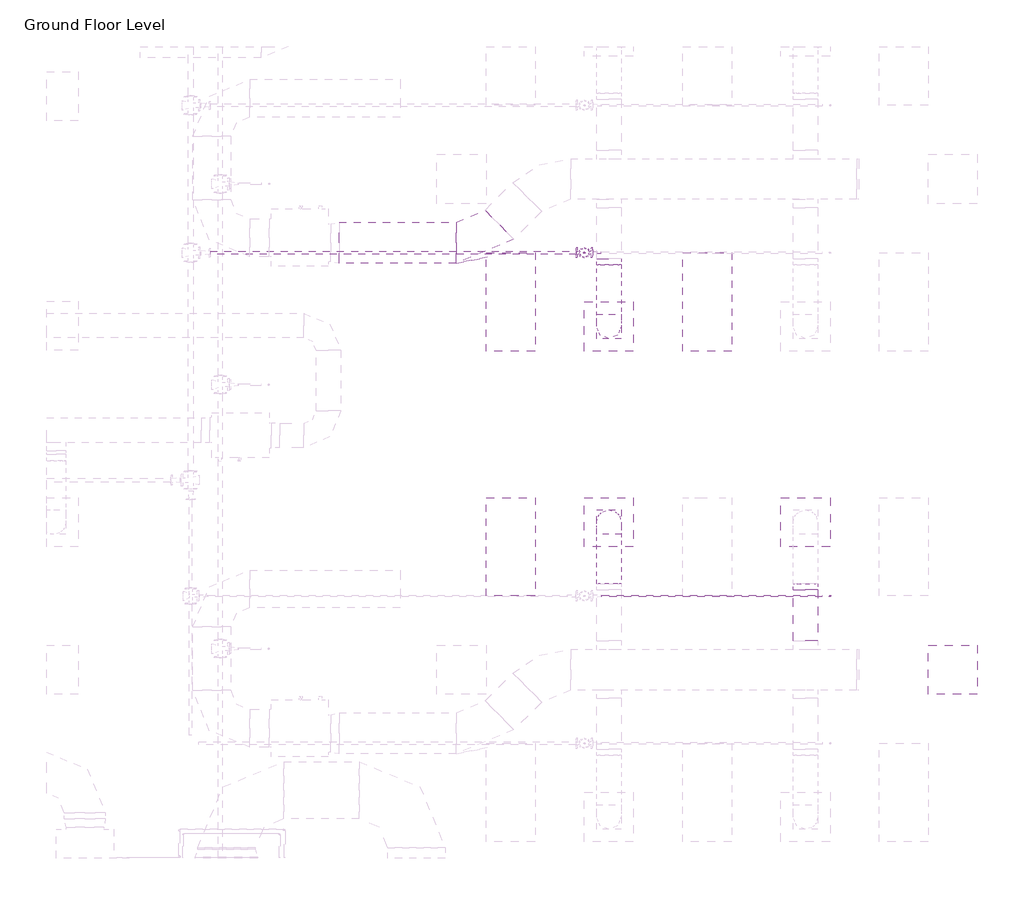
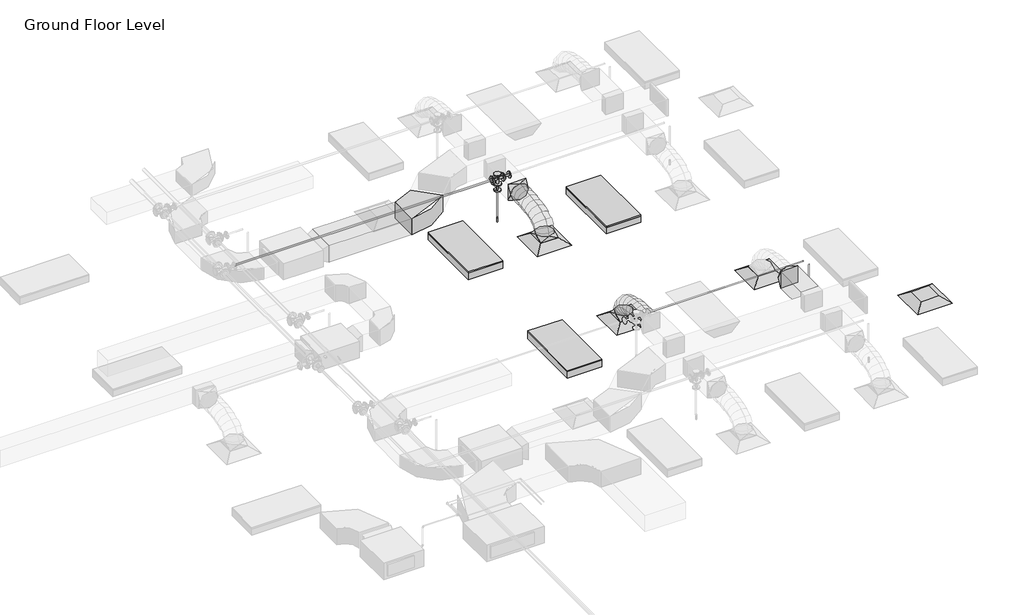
# One storey, part 37 of 68: 5 duct fittings, 4 air terminals, 4 duct segments, 4 pipe segments, 3 light fixtures, 3 pipe fittings, 2 fire suppression terminals.
"""IFC4 building model written with IfcOpenShell, lengths in millimetres."""

from ifc_helpers import new_model, si_unit, point, frame, frame_2d, origin, place, context, project, spatial, polyline, circle_curve, ellipse_curve, trimmed, segment, composite_curve, outline, extrude, transform, mapped, element, save
from ifc_brep_helpers import plane_surface, cylinder_surface, advanced_brep
from components import m_return_diffuser_600_x_600_face_300_x_300_connection_ff221211, m_rectangular_elbow_radius_1_5_w_acc56c25, m_rectangular_to_round_transition_angle_45_degree_641efff0, m_sprinkler_dry_pendent_hosted_15_mm_dry_pendent_9bda8e11, m_troffer_light_parabolic_rectangular1_0600x1200mm_4_lamp_86473d4a, m_reducer_flanged_cs_class_150_standard_ccf252ad, m_tee_round_base_flanged_cs_class_150_standard_7e5987a1

model = new_model("IFC4")

# Units and contexts
model_context = context("Model", 3, world=origin())
ifc_project = project(units=[si_unit("LENGTHUNIT", "METRE", prefix="MILLI")], contexts=[model_context])

# Site, building, storey
site = spatial("IfcSite", under=ifc_project)
building = spatial("IfcBuilding", under=site)
storey = spatial("IfcBuildingStorey", under=building, Name="Ground Floor Level", Elevation=900.0)

# Air terminals
placement = place(None, origin())
m_return_diffuser_600_x_600_face_300_x_300_connection_shape = m_return_diffuser_600_x_600_face_300_x_300_connection_ff221211(model_context)
element("IfcAirTerminal", 1, ObjectType="M_Return Diffuser : 600 x 600 Face 300 x 300 Connection", at=placement, inside=storey, context=model_context, shape_type="MappedRepresentation", body=[
    mapped(m_return_diffuser_600_x_600_face_300_x_300_connection_shape, transform((14942.7672395, -5264.7846466, 3650.0), x_axis=(1.0, 0.0, 0.0), y_axis=(0.0, 1.0, 0.0), z_axis=(0.0, 0.0, 1.0))),
])
element("IfcAirTerminal", 2, ObjectType="M_Supply Diffuser : 600 x 600 Face 300 x 300 Connection", at=placement, inside=storey, context=model_context, shape_type="MappedRepresentation", body=[
    mapped(m_return_diffuser_600_x_600_face_300_x_300_connection_shape, transform((10742.7672395, -1074.7846466, 3650.0), x_axis=(1.0, 0.0, 0.0), y_axis=(0.0, 1.0, 0.0), z_axis=(0.0, 0.0, 1.0))),
])
element("IfcAirTerminal", 3, ObjectType="M_Supply Diffuser : 600 x 600 Face 300 x 300 Connection", at=placement, inside=storey, context=model_context, shape_type="MappedRepresentation", body=[
    mapped(m_return_diffuser_600_x_600_face_300_x_300_connection_shape, transform((10742.7672395, -3464.7846466, 3650.0), x_axis=(1.0, 0.0, 0.0), y_axis=(0.0, 1.0, 0.0), z_axis=(0.0, 0.0, 1.0))),
])
element("IfcAirTerminal", 4, ObjectType="M_Supply Diffuser : 600 x 600 Face 300 x 300 Connection", at=placement, inside=storey, context=model_context, shape_type="MappedRepresentation", body=[
    mapped(m_return_diffuser_600_x_600_face_300_x_300_connection_shape, transform((13142.7672395, -3464.7846466, 3650.0), x_axis=(1.0, 0.0, 0.0), y_axis=(0.0, 1.0, 0.0), z_axis=(0.0, 0.0, 1.0))),
])

# Duct fittings
m_rectangular_elbow_radius_1_5_w_shape = m_rectangular_elbow_radius_1_5_w_acc56c25(model_context)
element("IfcDuctFitting", 5, ObjectType="M_Rectangular Elbow - Radius : 1.5 W", at=placement, inside=storey, context=model_context, shape_type="MappedRepresentation", body=[
    mapped(m_rectangular_elbow_radius_1_5_w_shape, transform((9187.6927358, -53.8220473, 4100.0047224), x_axis=(0.9999999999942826, 0.0, -3.3815582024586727e-06), y_axis=(-9.063610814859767e-12, 0.9999999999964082, -2.680306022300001e-06), z_axis=(3.3815582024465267e-06, 2.6803060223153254e-06, 0.9999999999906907))),
])
m_rectangular_to_round_transition_angle_45_degree_shape = m_rectangular_to_round_transition_angle_45_degree_641efff0(model_context)
element("IfcDuctFitting", 6, ObjectType="M_Rectangular to Round Transition - Angle : 45 Degree", at=placement, inside=storey, context=model_context, shape_type="MappedRepresentation", body=[
    mapped(m_rectangular_to_round_transition_angle_45_degree_shape, transform((13142.7672395, -4292.1205779, 4100.0), x_axis=(0.0, 1.0, 0.0), y_axis=(-1.0, 0.0, 0.0), z_axis=(0.0, 0.0, 1.0))),
])
element("IfcDuctFitting", 7, ObjectType="M_Rectangular to Round Transition - Angle : 45 Degree", at=placement, inside=storey, context=model_context, shape_type="MappedRepresentation", body=[
    mapped(m_rectangular_to_round_transition_angle_45_degree_shape, transform((10742.7672395, -3464.7846466, 3751.6), x_axis=(0.0, 0.0, 1.0), y_axis=(-1.0, 0.0, 0.0), z_axis=(0.0, -1.0, 0.0))),
])
element("IfcDuctFitting", 8, ObjectType="M_Rectangular to Round Transition - Angle : 45 Degree", at=placement, inside=storey, context=model_context, shape_type="MappedRepresentation", body=[
    mapped(m_rectangular_to_round_transition_angle_45_degree_shape, transform((10742.7672395, -1074.7846466, 3751.6), x_axis=(0.0, 0.0, 1.0), y_axis=(-1.0, 0.0, 0.0), z_axis=(0.0, -1.0, 0.0))),
])
element("IfcDuctFitting", 9, ObjectType="M_Rectangular to Round Transition - Angle : 45 Degree", at=placement, inside=storey, context=model_context, shape_type="MappedRepresentation", body=[
    mapped(m_rectangular_to_round_transition_angle_45_degree_shape, transform((10742.7672395, -247.4487153, 4100.0), x_axis=(0.0, -1.0, 0.0), y_axis=(1.0, 0.0, 0.0), z_axis=(0.0, 0.0, 1.0))),
])

# Duct segments
element("IfcDuctSegment", 10, ObjectType="Flex - Round", at=placement, inside=storey, context=model_context, shape_type="AdvancedBrep", body=[
    advanced_brep(
    [(10892.7672395, -3464.7846466, 3826.6), (10742.7672395, -3614.7846466, 3826.6), (10592.7672395, -3464.7846466, 3826.6), (10742.7672395, -3314.7846466, 3826.6), (10892.7672395, -3464.7846466, 3857.9377114), (10742.7672395, -3614.7846466, 3832.2944892), (10592.7672395, -3464.7846466, 3857.9377114), (10742.7672395, -3314.7846466, 3883.5809337), (10892.7672395, -3481.8005792, 3906.2505728), (10742.7672395, -3615.5385581, 3834.435049), (10592.7672395, -3481.8005792, 3906.2505728), (10742.7672395, -3348.0626002, 3978.0660967), (10892.7672395, -3528.9844595, 3968.7113131), (10742.7672395, -3633.1903588, 3857.8020236), (10592.7672395, -3528.9844595, 3968.7113131), (10742.7672395, -3424.7785603, 4079.6206026), (10892.7672395, -3600.5404117, 4016.0700639), (10742.7672395, -3669.4744673, 3881.8163788), (10592.7672395, -3600.5404117, 4016.0700639), (10742.7672395, -3531.606356, 4150.3237489), (10892.7672395, -3690.6725597, 4050.4146682), (10742.7672395, -3734.2333228, 3906.4925606), (10592.7672395, -3690.6725597, 4050.4146682), (10742.7672395, -3647.1117965, 4194.3367758), (10892.7672395, -3793.5850275, 4073.8329691), (10742.7672395, -3820.1459515, 3926.0424542), (10592.7672395, -3793.5850275, 4073.8329691), (10742.7672395, -3767.0241035, 4221.6234841), (10892.7672395, -3903.4819392, 4088.4128097), (10742.7672395, -3918.6328416, 3939.1085462), (10592.7672395, -3903.4819392, 4088.4128097), (10742.7672395, -3888.3310369, 4237.7170733), (10892.7672395, -4014.5674189, 4096.242033), (10742.7672395, -4022.0727471, 3946.398915), (10592.7672395, -4014.5674189, 4096.242033), (10742.7672395, -4007.0620907, 4246.085151), (10892.7672395, -4121.0455904, 4099.4084821), (10742.7672395, -4123.7370835, 3949.4222102), (10592.7672395, -4121.0455904, 4099.4084821), (10742.7672395, -4118.3540973, 4249.394754), (10892.7672395, -4217.1205779, 4100.0), (10742.7672395, -4216.1970701, 4249.9971571), (10592.7672395, -4217.1205779, 4100.0), (10742.7672395, -4218.0440857, 3950.0028429)],
    [
        (0, 1, circle_curve(frame((10742.7672395, -3464.7846466, 3826.6), z_axis=(0.0, 0.0, -1.0), x_axis=(1.0, 0.0, 0.0)), 150.0)),
        (1, 2, circle_curve(frame((10742.7672395, -3464.7846466, 3826.6), z_axis=(0.0, 0.0, -1.0), x_axis=(1.0, 0.0, 0.0)), 150.0)),
        (2, 3, circle_curve(frame((10742.7672395, -3464.7846466, 3826.6), z_axis=(0.0, 0.0, -1.0), x_axis=(1.0, 0.0, 0.0)), 150.0)),
        (3, 0, circle_curve(frame((10742.7672395, -3464.7846466, 3826.6), z_axis=(0.0, 0.0, -1.0), x_axis=(1.0, 0.0, 0.0)), 150.0)),
        (0, 4),
        (4, 5, ellipse_curve(frame((10742.7672395, -3464.7846466, 3857.9377114), z_axis=(0.0, 0.16851014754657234, -0.9856999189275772), x_axis=(0.0, -0.9856999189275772, -0.1685101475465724)), 152.176131, 150.0)),
        (5, 1),
        (5, 6, ellipse_curve(frame((10742.7672395, -3464.7846466, 3857.9377114), z_axis=(0.0, 0.16851014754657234, -0.9856999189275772), x_axis=(0.0, -0.9856999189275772, -0.1685101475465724)), 152.176131, 150.0)),
        (6, 2),
        (6, 7, ellipse_curve(frame((10742.7672395, -3464.7846466, 3857.9377114), z_axis=(0.0, 0.16851014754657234, -0.9856999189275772), x_axis=(0.0, -0.9856999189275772, -0.1685101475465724)), 152.176131, 150.0)),
        (7, 3),
        (7, 4, ellipse_curve(frame((10742.7672395, -3464.7846466, 3857.9377114), z_axis=(0.0, 0.16851014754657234, -0.9856999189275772), x_axis=(0.0, -0.9856999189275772, -0.1685101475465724)), 152.176131, 150.0)),
        (4, 8),
        (8, 9, ellipse_curve(frame((10742.7672395, -3481.8005792, 3906.2505728), z_axis=(0.0, 0.47309225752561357, -0.8810128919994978), x_axis=(0.0, -0.8810128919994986, -0.47309225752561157)), 151.8002519, 150.0)),
        (9, 5),
        (9, 10, ellipse_curve(frame((10742.7672395, -3481.8005792, 3906.2505728), z_axis=(0.0, 0.47309225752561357, -0.8810128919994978), x_axis=(0.0, -0.8810128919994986, -0.47309225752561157)), 151.8002519, 150.0)),
        (10, 6),
        (10, 11, ellipse_curve(frame((10742.7672395, -3481.8005792, 3906.2505728), z_axis=(0.0, 0.47309225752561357, -0.8810128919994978), x_axis=(0.0, -0.8810128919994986, -0.47309225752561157)), 151.8002519, 150.0)),
        (11, 7),
        (11, 8, ellipse_curve(frame((10742.7672395, -3481.8005792, 3906.2505728), z_axis=(0.0, 0.47309225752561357, -0.8810128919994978), x_axis=(0.0, -0.8810128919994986, -0.47309225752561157)), 151.8002519, 150.0)),
        (8, 12),
        (12, 13, ellipse_curve(frame((10742.7672395, -3528.9844595, 3968.7113131), z_axis=(0.0, 0.7287877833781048, -0.6847396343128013), x_axis=(0.0, -0.6847396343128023, -0.7287877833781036)), 152.1832446, 150.0)),
        (13, 9),
        (13, 14, ellipse_curve(frame((10742.7672395, -3528.9844595, 3968.7113131), z_axis=(0.0, 0.7287877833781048, -0.6847396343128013), x_axis=(0.0, -0.6847396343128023, -0.7287877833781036)), 152.1832446, 150.0)),
        (14, 10),
        (14, 15, ellipse_curve(frame((10742.7672395, -3528.9844595, 3968.7113131), z_axis=(0.0, 0.7287877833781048, -0.6847396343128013), x_axis=(0.0, -0.6847396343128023, -0.7287877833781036)), 152.1832446, 150.0)),
        (15, 11),
        (15, 12, ellipse_curve(frame((10742.7672395, -3528.9844595, 3968.7113131), z_axis=(0.0, 0.7287877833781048, -0.6847396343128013), x_axis=(0.0, -0.6847396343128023, -0.7287877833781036)), 152.1832446, 150.0)),
        (12, 16),
        (16, 17, ellipse_curve(frame((10742.7672395, -3600.5404117, 4016.0700639), z_axis=(0.0, 0.8895859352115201, -0.45676784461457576), x_axis=(0.0, -0.45676784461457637, -0.8895859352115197)), 150.91705, 150.0)),
        (17, 13),
        (17, 18, ellipse_curve(frame((10742.7672395, -3600.5404117, 4016.0700639), z_axis=(0.0, 0.8895859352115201, -0.45676784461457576), x_axis=(0.0, -0.45676784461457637, -0.8895859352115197)), 150.91705, 150.0)),
        (18, 14),
        (18, 19, ellipse_curve(frame((10742.7672395, -3600.5404117, 4016.0700639), z_axis=(0.0, 0.8895859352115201, -0.45676784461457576), x_axis=(0.0, -0.45676784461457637, -0.8895859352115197)), 150.91705, 150.0)),
        (19, 15),
        (19, 16, ellipse_curve(frame((10742.7672395, -3600.5404117, 4016.0700639), z_axis=(0.0, 0.8895859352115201, -0.45676784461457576), x_axis=(0.0, -0.45676784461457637, -0.8895859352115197)), 150.91705, 150.0)),
        (16, 20),
        (20, 21, ellipse_curve(frame((10742.7672395, -3690.6725597, 4050.4146682), z_axis=(0.0, 0.9571203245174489, -0.2896906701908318), x_axis=(0.0, -0.28969067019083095, -0.9571203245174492)), 150.369921, 150.0)),
        (21, 17),
        (21, 22, ellipse_curve(frame((10742.7672395, -3690.6725597, 4050.4146682), z_axis=(0.0, 0.9571203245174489, -0.2896906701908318), x_axis=(0.0, -0.28969067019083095, -0.9571203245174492)), 150.369921, 150.0)),
        (22, 18),
        (22, 23, ellipse_curve(frame((10742.7672395, -3690.6725597, 4050.4146682), z_axis=(0.0, 0.9571203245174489, -0.2896906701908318), x_axis=(0.0, -0.28969067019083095, -0.9571203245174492)), 150.369921, 150.0)),
        (23, 19),
        (23, 20, ellipse_curve(frame((10742.7672395, -3690.6725597, 4050.4146682), z_axis=(0.0, 0.9571203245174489, -0.2896906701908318), x_axis=(0.0, -0.28969067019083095, -0.9571203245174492)), 150.369921, 150.0)),
        (20, 24),
        (24, 25, ellipse_curve(frame((10742.7672395, -3793.5850275, 4073.8329691), z_axis=(0.0, 0.9842313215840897, -0.17688613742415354), x_axis=(0.0, -0.1768861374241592, -0.9842313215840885)), 150.1583131, 150.0)),
        (25, 21),
        (25, 26, ellipse_curve(frame((10742.7672395, -3793.5850275, 4073.8329691), z_axis=(0.0, 0.9842313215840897, -0.17688613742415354), x_axis=(0.0, -0.1768861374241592, -0.9842313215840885)), 150.1583131, 150.0)),
        (26, 22),
        (26, 27, ellipse_curve(frame((10742.7672395, -3793.5850275, 4073.8329691), z_axis=(0.0, 0.9842313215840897, -0.17688613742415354), x_axis=(0.0, -0.1768861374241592, -0.9842313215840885)), 150.1583131, 150.0)),
        (27, 23),
        (27, 24, ellipse_curve(frame((10742.7672395, -3793.5850275, 4073.8329691), z_axis=(0.0, 0.9842313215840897, -0.17688613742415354), x_axis=(0.0, -0.1768861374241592, -0.9842313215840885)), 150.1583131, 150.0)),
        (24, 28),
        (28, 29, ellipse_curve(frame((10742.7672395, -3903.4819392, 4088.4128097), z_axis=(0.0, 0.9948906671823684, -0.10095821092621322), x_axis=(0.0, -0.10095821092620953, -0.9948906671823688)), 150.0710264, 150.0)),
        (29, 25),
        (29, 30, ellipse_curve(frame((10742.7672395, -3903.4819392, 4088.4128097), z_axis=(0.0, 0.9948906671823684, -0.10095821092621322), x_axis=(0.0, -0.10095821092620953, -0.9948906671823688)), 150.0710264, 150.0)),
        (30, 26),
        (30, 31, ellipse_curve(frame((10742.7672395, -3903.4819392, 4088.4128097), z_axis=(0.0, 0.9948906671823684, -0.10095821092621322), x_axis=(0.0, -0.10095821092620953, -0.9948906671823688)), 150.0710264, 150.0)),
        (31, 27),
        (31, 28, ellipse_curve(frame((10742.7672395, -3903.4819392, 4088.4128097), z_axis=(0.0, 0.9948906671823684, -0.10095821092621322), x_axis=(0.0, -0.10095821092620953, -0.9948906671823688)), 150.0710264, 150.0)),
        (28, 32),
        (32, 33, ellipse_curve(frame((10742.7672395, -4014.5674189, 4096.242033), z_axis=(0.0, 0.9987479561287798, -0.050025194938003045), x_axis=(0.0, -0.05002519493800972, -0.9987479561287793)), 150.0309634, 150.0)),
        (33, 29),
        (33, 34, ellipse_curve(frame((10742.7672395, -4014.5674189, 4096.242033), z_axis=(0.0, 0.9987479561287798, -0.050025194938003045), x_axis=(0.0, -0.05002519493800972, -0.9987479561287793)), 150.0309634, 150.0)),
        (34, 30),
        (34, 35, ellipse_curve(frame((10742.7672395, -4014.5674189, 4096.242033), z_axis=(0.0, 0.9987479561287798, -0.050025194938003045), x_axis=(0.0, -0.05002519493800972, -0.9987479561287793)), 150.0309634, 150.0)),
        (35, 31),
        (35, 32, ellipse_curve(frame((10742.7672395, -4014.5674189, 4096.242033), z_axis=(0.0, 0.9987479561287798, -0.050025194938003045), x_axis=(0.0, -0.05002519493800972, -0.9987479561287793)), 150.0309634, 150.0)),
        (32, 36),
        (36, 37, ellipse_curve(frame((10742.7672395, -4121.0455904, 4099.4084821), z_axis=(0.0, 0.9998390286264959, -0.017942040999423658), x_axis=(0.0, -0.017942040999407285, -0.9998390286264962)), 150.0104193, 150.0)),
        (37, 33),
        (37, 38, ellipse_curve(frame((10742.7672395, -4121.0455904, 4099.4084821), z_axis=(0.0, 0.9998390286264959, -0.017942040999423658), x_axis=(0.0, -0.017942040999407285, -0.9998390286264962)), 150.0104193, 150.0)),
        (38, 34),
        (38, 39, ellipse_curve(frame((10742.7672395, -4121.0455904, 4099.4084821), z_axis=(0.0, 0.9998390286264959, -0.017942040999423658), x_axis=(0.0, -0.017942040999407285, -0.9998390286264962)), 150.0104193, 150.0)),
        (39, 35),
        (39, 36, ellipse_curve(frame((10742.7672395, -4121.0455904, 4099.4084821), z_axis=(0.0, 0.9998390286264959, -0.017942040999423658), x_axis=(0.0, -0.017942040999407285, -0.9998390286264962)), 150.0104193, 150.0)),
        (40, 41, circle_curve(frame((10742.7672395, -4217.1205779, 4100.0), z_axis=(0.0, -0.9999810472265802, 0.006156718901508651), x_axis=(1.0, 0.0, 0.0)), 150.0)),
        (41, 42, circle_curve(frame((10742.7672395, -4217.1205779, 4100.0), z_axis=(0.0, -0.9999810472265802, 0.006156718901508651), x_axis=(1.0, 0.0, 0.0)), 150.0)),
        (42, 43, circle_curve(frame((10742.7672395, -4217.1205779, 4100.0), z_axis=(0.0, -0.9999810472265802, 0.006156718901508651), x_axis=(1.0, 0.0, 0.0)), 150.0)),
        (43, 40, circle_curve(frame((10742.7672395, -4217.1205779, 4100.0), z_axis=(0.0, -0.9999810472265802, 0.006156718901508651), x_axis=(1.0, 0.0, 0.0)), 150.0)),
        (36, 40),
        (43, 37),
        (42, 38),
        (41, 39),
    ],
    [
        plane_surface(frame((10742.7672395, -3614.7846466, 3826.6), z_axis=(0.0, 0.0, -1.0), x_axis=(1.0, 0.0, 0.0))),
        cylinder_surface(frame((10742.7672395, -3464.7846466, 3826.6), z_axis=(0.0, 0.0, -1.0), x_axis=(1.0, 0.0, 0.0)), 150.0),
        cylinder_surface(frame((10742.7672395, -3464.7846466, 3857.9377114), z_axis=(0.0, 0.3322008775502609, -0.9432086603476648), x_axis=(1.0, 0.0, 0.0)), 150.0),
        cylinder_surface(frame((10742.7672395, -3481.8005792, 3906.2505728), z_axis=(0.0, 0.6027625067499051, -0.7979206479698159), x_axis=(1.0, 0.0, 0.0)), 150.0),
        cylinder_surface(frame((10742.7672395, -3528.9844595, 3968.7113131), z_axis=(0.0, 0.833902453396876, -0.5519118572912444), x_axis=(1.0, 0.0, 0.0)), 150.0),
        cylinder_surface(frame((10742.7672395, -3600.5404117, 4016.0700639), z_axis=(0.0, 0.9344582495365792, -0.35607271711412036), x_axis=(1.0, 0.0, 0.0)), 150.0),
        cylinder_surface(frame((10742.7672395, -3690.6725597, 4050.4146682), z_axis=(0.0, 0.9750732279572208, -0.22188330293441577), x_axis=(1.0, 0.0, 0.0)), 150.0),
        cylinder_surface(frame((10742.7672395, -3793.5850275, 4073.8329691), z_axis=(0.0, 0.9913140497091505, -0.131515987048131), x_axis=(1.0, 0.0, 0.0)), 150.0),
        cylinder_surface(frame((10742.7672395, -3903.4819392, 4088.4128097), z_axis=(0.0, 0.9975255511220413, -0.07030487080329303), x_axis=(1.0, 0.0, 0.0)), 150.0),
        cylinder_surface(frame((10742.7672395, -4014.5674189, 4096.242033), z_axis=(0.0, 0.9995581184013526, -0.02972487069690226), x_axis=(1.0, 0.0, 0.0)), 150.0),
        plane_surface(frame((10742.7672395, -4218.0440857, 3950.0028429), z_axis=(0.0, -0.9999810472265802, 0.006156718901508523), x_axis=(1.0, 0.0, 0.0))),
        cylinder_surface(frame((10742.7672395, -4121.0455904, 4099.4084821), z_axis=(0.0, 0.9999810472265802, -0.006156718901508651), x_axis=(1.0, 0.0, 0.0)), 150.0),
    ],
    [
        (0, [[1, 2, 3, 4]]),
        (1, [[-1, 5, 6, 7]]),
        (1, [[-2, -7, 8, 9]]),
        (1, [[-3, -9, 10, 11]]),
        (1, [[-4, -11, 12, -5]]),
        (2, [[-6, 13, 14, 15]]),
        (2, [[-8, -15, 16, 17]]),
        (2, [[-10, -17, 18, 19]]),
        (2, [[-12, -19, 20, -13]]),
        (3, [[-14, 21, 22, 23]]),
        (3, [[-16, -23, 24, 25]]),
        (3, [[-18, -25, 26, 27]]),
        (3, [[-20, -27, 28, -21]]),
        (4, [[-22, 29, 30, 31]]),
        (4, [[-24, -31, 32, 33]]),
        (4, [[-26, -33, 34, 35]]),
        (4, [[-28, -35, 36, -29]]),
        (5, [[-30, 37, 38, 39]]),
        (5, [[-32, -39, 40, 41]]),
        (5, [[-34, -41, 42, 43]]),
        (5, [[-36, -43, 44, -37]]),
        (6, [[-38, 45, 46, 47]]),
        (6, [[-40, -47, 48, 49]]),
        (6, [[-42, -49, 50, 51]]),
        (6, [[-44, -51, 52, -45]]),
        (7, [[-46, 53, 54, 55]]),
        (7, [[-48, -55, 56, 57]]),
        (7, [[-50, -57, 58, 59]]),
        (7, [[-52, -59, 60, -53]]),
        (8, [[-54, 61, 62, 63]]),
        (8, [[-56, -63, 64, 65]]),
        (8, [[-58, -65, 66, 67]]),
        (8, [[-60, -67, 68, -61]]),
        (9, [[-62, 69, 70, 71]]),
        (9, [[-64, -71, 72, 73]]),
        (9, [[-66, -73, 74, 75]]),
        (9, [[-68, -75, 76, -69]]),
        (10, [[77, 78, 79, 80]]),
        (11, [[-70, 81, -80, 82]]),
        (11, [[-72, -82, -79, 83]]),
        (11, [[-74, -83, -78, 84]]),
        (11, [[-76, -84, -77, -81]]),
    ],
),
])
element("IfcDuctSegment", 11, ObjectType="Flex - Round", at=placement, inside=storey, context=model_context, shape_type="AdvancedBrep", body=[
    advanced_brep(
    [(10892.7672395, -1074.7846466, 3826.6), (10742.7672395, -1224.7846466, 3826.6), (10592.7672395, -1074.7846466, 3826.6), (10742.7672395, -924.7846466, 3826.6), (10892.7672395, -1074.7846466, 3857.9377114), (10742.7672395, -1224.7846466, 3883.5809337), (10592.7672395, -1074.7846466, 3857.9377114), (10742.7672395, -924.7846466, 3832.2944892), (10892.7672395, -1057.7687141, 3906.2505728), (10742.7672395, -1191.506693, 3978.0660967), (10592.7672395, -1057.7687141, 3906.2505728), (10742.7672395, -924.0307351, 3834.435049), (10892.7672395, -1010.5848337, 3968.7113131), (10742.7672395, -1114.790733, 4079.6206026), (10592.7672395, -1010.5848337, 3968.7113131), (10742.7672395, -906.3789345, 3857.8020236), (10892.7672395, -939.0288816, 4016.0700639), (10742.7672395, -1007.9629372, 4150.3237489), (10592.7672395, -939.0288816, 4016.0700639), (10742.7672395, -870.0948259, 3881.8163788), (10892.7672395, -848.8967336, 4050.4146682), (10742.7672395, -892.4574967, 4194.3367758), (10592.7672395, -848.8967336, 4050.4146682), (10742.7672395, -805.3359704, 3906.4925606), (10892.7672395, -745.9842657, 4073.8329691), (10742.7672395, -772.5451897, 4221.6234841), (10592.7672395, -745.9842657, 4073.8329691), (10742.7672395, -719.4233417, 3926.0424542), (10892.7672395, -636.087354, 4088.4128097), (10742.7672395, -651.2382563, 4237.7170733), (10592.7672395, -636.087354, 4088.4128097), (10742.7672395, -620.9364516, 3939.1085462), (10892.7672395, -525.0018744, 4096.242033), (10742.7672395, -532.5072025, 4246.085151), (10592.7672395, -525.0018744, 4096.242033), (10742.7672395, -517.4965462, 3946.398915), (10892.7672395, -418.5237028, 4099.4084821), (10742.7672395, -421.2151959, 4249.394754), (10592.7672395, -418.5237028, 4099.4084821), (10742.7672395, -415.8322097, 3949.4222102), (10892.7672395, -322.4487153, 4100.0), (10742.7672395, -321.5252075, 3950.0028429), (10592.7672395, -322.4487153, 4100.0), (10742.7672395, -323.3722232, 4249.9971571)],
    [
        (0, 1, circle_curve(frame((10742.7672395, -1074.7846466, 3826.6), z_axis=(0.0, 0.0, -1.0), x_axis=(1.0, 0.0, 0.0)), 150.0)),
        (1, 2, circle_curve(frame((10742.7672395, -1074.7846466, 3826.6), z_axis=(0.0, 0.0, -1.0), x_axis=(1.0, 0.0, 0.0)), 150.0)),
        (2, 3, circle_curve(frame((10742.7672395, -1074.7846466, 3826.6), z_axis=(0.0, 0.0, -1.0), x_axis=(1.0, 0.0, 0.0)), 150.0)),
        (3, 0, circle_curve(frame((10742.7672395, -1074.7846466, 3826.6), z_axis=(0.0, 0.0, -1.0), x_axis=(1.0, 0.0, 0.0)), 150.0)),
        (0, 4),
        (4, 5, ellipse_curve(frame((10742.7672395, -1074.7846466, 3857.9377114), z_axis=(0.0, -0.16851014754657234, -0.9856999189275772), x_axis=(0.0, 0.9856999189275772, -0.1685101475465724)), 152.176131, 150.0)),
        (5, 1),
        (5, 6, ellipse_curve(frame((10742.7672395, -1074.7846466, 3857.9377114), z_axis=(0.0, -0.16851014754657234, -0.9856999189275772), x_axis=(0.0, 0.9856999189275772, -0.1685101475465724)), 152.176131, 150.0)),
        (6, 2),
        (6, 7, ellipse_curve(frame((10742.7672395, -1074.7846466, 3857.9377114), z_axis=(0.0, -0.16851014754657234, -0.9856999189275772), x_axis=(0.0, 0.9856999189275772, -0.1685101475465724)), 152.176131, 150.0)),
        (7, 3),
        (7, 4, ellipse_curve(frame((10742.7672395, -1074.7846466, 3857.9377114), z_axis=(0.0, -0.16851014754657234, -0.9856999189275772), x_axis=(0.0, 0.9856999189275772, -0.1685101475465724)), 152.176131, 150.0)),
        (4, 8),
        (8, 9, ellipse_curve(frame((10742.7672395, -1057.7687141, 3906.2505728), z_axis=(0.0, -0.4730922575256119, -0.8810128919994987), x_axis=(0.0, 0.8810128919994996, -0.47309225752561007)), 151.8002519, 150.0)),
        (9, 5),
        (9, 10, ellipse_curve(frame((10742.7672395, -1057.7687141, 3906.2505728), z_axis=(0.0, -0.4730922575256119, -0.8810128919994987), x_axis=(0.0, 0.8810128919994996, -0.47309225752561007)), 151.8002519, 150.0)),
        (10, 6),
        (10, 11, ellipse_curve(frame((10742.7672395, -1057.7687141, 3906.2505728), z_axis=(0.0, -0.4730922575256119, -0.8810128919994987), x_axis=(0.0, 0.8810128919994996, -0.47309225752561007)), 151.8002519, 150.0)),
        (11, 7),
        (11, 8, ellipse_curve(frame((10742.7672395, -1057.7687141, 3906.2505728), z_axis=(0.0, -0.4730922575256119, -0.8810128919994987), x_axis=(0.0, 0.8810128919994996, -0.47309225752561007)), 151.8002519, 150.0)),
        (8, 12),
        (12, 13, ellipse_curve(frame((10742.7672395, -1010.5848337, 3968.7113131), z_axis=(0.0, -0.7287877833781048, -0.6847396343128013), x_axis=(0.0, 0.6847396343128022, -0.7287877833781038)), 152.1832446, 150.0)),
        (13, 9),
        (13, 14, ellipse_curve(frame((10742.7672395, -1010.5848337, 3968.7113131), z_axis=(0.0, -0.7287877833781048, -0.6847396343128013), x_axis=(0.0, 0.6847396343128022, -0.7287877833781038)), 152.1832446, 150.0)),
        (14, 10),
        (14, 15, ellipse_curve(frame((10742.7672395, -1010.5848337, 3968.7113131), z_axis=(0.0, -0.7287877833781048, -0.6847396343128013), x_axis=(0.0, 0.6847396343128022, -0.7287877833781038)), 152.1832446, 150.0)),
        (15, 11),
        (15, 12, ellipse_curve(frame((10742.7672395, -1010.5848337, 3968.7113131), z_axis=(0.0, -0.7287877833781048, -0.6847396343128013), x_axis=(0.0, 0.6847396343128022, -0.7287877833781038)), 152.1832446, 150.0)),
        (12, 16),
        (16, 17, ellipse_curve(frame((10742.7672395, -939.0288816, 4016.0700639), z_axis=(0.0, -0.8895859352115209, -0.45676784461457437), x_axis=(0.0, 0.4567678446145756, -0.8895859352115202)), 150.91705, 150.0)),
        (17, 13),
        (17, 18, ellipse_curve(frame((10742.7672395, -939.0288816, 4016.0700639), z_axis=(0.0, -0.8895859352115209, -0.45676784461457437), x_axis=(0.0, 0.4567678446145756, -0.8895859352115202)), 150.91705, 150.0)),
        (18, 14),
        (18, 19, ellipse_curve(frame((10742.7672395, -939.0288816, 4016.0700639), z_axis=(0.0, -0.8895859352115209, -0.45676784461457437), x_axis=(0.0, 0.4567678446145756, -0.8895859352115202)), 150.91705, 150.0)),
        (19, 15),
        (19, 16, ellipse_curve(frame((10742.7672395, -939.0288816, 4016.0700639), z_axis=(0.0, -0.8895859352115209, -0.45676784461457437), x_axis=(0.0, 0.4567678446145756, -0.8895859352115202)), 150.91705, 150.0)),
        (16, 20),
        (20, 21, ellipse_curve(frame((10742.7672395, -848.8967336, 4050.4146682), z_axis=(0.0, -0.9571203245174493, -0.28969067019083), x_axis=(0.0, 0.2896906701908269, -0.9571203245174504)), 150.369921, 150.0)),
        (21, 17),
        (21, 22, ellipse_curve(frame((10742.7672395, -848.8967336, 4050.4146682), z_axis=(0.0, -0.9571203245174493, -0.28969067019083), x_axis=(0.0, 0.2896906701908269, -0.9571203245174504)), 150.369921, 150.0)),
        (22, 18),
        (22, 23, ellipse_curve(frame((10742.7672395, -848.8967336, 4050.4146682), z_axis=(0.0, -0.9571203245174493, -0.28969067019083), x_axis=(0.0, 0.2896906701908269, -0.9571203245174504)), 150.369921, 150.0)),
        (23, 19),
        (23, 20, ellipse_curve(frame((10742.7672395, -848.8967336, 4050.4146682), z_axis=(0.0, -0.9571203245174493, -0.28969067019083), x_axis=(0.0, 0.2896906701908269, -0.9571203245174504)), 150.369921, 150.0)),
        (20, 24),
        (24, 25, ellipse_curve(frame((10742.7672395, -745.9842657, 4073.8329691), z_axis=(0.0, -0.9842313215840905, -0.17688613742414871), x_axis=(0.0, 0.17688613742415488, -0.9842313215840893)), 150.1583131, 150.0)),
        (25, 21),
        (25, 26, ellipse_curve(frame((10742.7672395, -745.9842657, 4073.8329691), z_axis=(0.0, -0.9842313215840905, -0.17688613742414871), x_axis=(0.0, 0.17688613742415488, -0.9842313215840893)), 150.1583131, 150.0)),
        (26, 22),
        (26, 27, ellipse_curve(frame((10742.7672395, -745.9842657, 4073.8329691), z_axis=(0.0, -0.9842313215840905, -0.17688613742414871), x_axis=(0.0, 0.17688613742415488, -0.9842313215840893)), 150.1583131, 150.0)),
        (27, 23),
        (27, 24, ellipse_curve(frame((10742.7672395, -745.9842657, 4073.8329691), z_axis=(0.0, -0.9842313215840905, -0.17688613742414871), x_axis=(0.0, 0.17688613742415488, -0.9842313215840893)), 150.1583131, 150.0)),
        (24, 28),
        (28, 29, ellipse_curve(frame((10742.7672395, -636.087354, 4088.4128097), z_axis=(0.0, -0.9948906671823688, -0.10095821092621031), x_axis=(0.0, 0.10095821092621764, -0.994890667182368)), 150.0710264, 150.0)),
        (29, 25),
        (29, 30, ellipse_curve(frame((10742.7672395, -636.087354, 4088.4128097), z_axis=(0.0, -0.9948906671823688, -0.10095821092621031), x_axis=(0.0, 0.10095821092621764, -0.994890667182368)), 150.0710264, 150.0)),
        (30, 26),
        (30, 31, ellipse_curve(frame((10742.7672395, -636.087354, 4088.4128097), z_axis=(0.0, -0.9948906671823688, -0.10095821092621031), x_axis=(0.0, 0.10095821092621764, -0.994890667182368)), 150.0710264, 150.0)),
        (31, 27),
        (31, 28, ellipse_curve(frame((10742.7672395, -636.087354, 4088.4128097), z_axis=(0.0, -0.9948906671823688, -0.10095821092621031), x_axis=(0.0, 0.10095821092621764, -0.994890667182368)), 150.0710264, 150.0)),
        (28, 32),
        (32, 33, ellipse_curve(frame((10742.7672395, -525.0018744, 4096.242033), z_axis=(0.0, -0.9987479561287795, -0.050025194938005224), x_axis=(0.0, 0.050025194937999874, -0.9987479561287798)), 150.0309634, 150.0)),
        (33, 29),
        (33, 34, ellipse_curve(frame((10742.7672395, -525.0018744, 4096.242033), z_axis=(0.0, -0.9987479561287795, -0.050025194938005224), x_axis=(0.0, 0.050025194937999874, -0.9987479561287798)), 150.0309634, 150.0)),
        (34, 30),
        (34, 35, ellipse_curve(frame((10742.7672395, -525.0018744, 4096.242033), z_axis=(0.0, -0.9987479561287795, -0.050025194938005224), x_axis=(0.0, 0.050025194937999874, -0.9987479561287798)), 150.0309634, 150.0)),
        (35, 31),
        (35, 32, ellipse_curve(frame((10742.7672395, -525.0018744, 4096.242033), z_axis=(0.0, -0.9987479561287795, -0.050025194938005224), x_axis=(0.0, 0.050025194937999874, -0.9987479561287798)), 150.0309634, 150.0)),
        (32, 36),
        (36, 37, ellipse_curve(frame((10742.7672395, -418.5237028, 4099.4084821), z_axis=(0.0, -0.9998390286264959, -0.017942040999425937), x_axis=(0.0, 0.017942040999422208, -0.999839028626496)), 150.0104193, 150.0)),
        (37, 33),
        (37, 38, ellipse_curve(frame((10742.7672395, -418.5237028, 4099.4084821), z_axis=(0.0, -0.9998390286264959, -0.017942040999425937), x_axis=(0.0, 0.017942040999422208, -0.999839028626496)), 150.0104193, 150.0)),
        (38, 34),
        (38, 39, ellipse_curve(frame((10742.7672395, -418.5237028, 4099.4084821), z_axis=(0.0, -0.9998390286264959, -0.017942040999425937), x_axis=(0.0, 0.017942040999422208, -0.999839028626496)), 150.0104193, 150.0)),
        (39, 35),
        (39, 36, ellipse_curve(frame((10742.7672395, -418.5237028, 4099.4084821), z_axis=(0.0, -0.9998390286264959, -0.017942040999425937), x_axis=(0.0, 0.017942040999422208, -0.999839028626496)), 150.0104193, 150.0)),
        (40, 41, circle_curve(frame((10742.7672395, -322.4487153, 4100.0), z_axis=(0.0, 0.9999810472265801, 0.006156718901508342), x_axis=(1.0, 0.0, 0.0)), 150.0)),
        (41, 42, circle_curve(frame((10742.7672395, -322.4487153, 4100.0), z_axis=(0.0, 0.9999810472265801, 0.006156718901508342), x_axis=(1.0, 0.0, 0.0)), 150.0)),
        (42, 43, circle_curve(frame((10742.7672395, -322.4487153, 4100.0), z_axis=(0.0, 0.9999810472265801, 0.006156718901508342), x_axis=(1.0, 0.0, 0.0)), 150.0)),
        (43, 40, circle_curve(frame((10742.7672395, -322.4487153, 4100.0), z_axis=(0.0, 0.9999810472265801, 0.006156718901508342), x_axis=(1.0, 0.0, 0.0)), 150.0)),
        (36, 40),
        (43, 37),
        (42, 38),
        (41, 39),
    ],
    [
        plane_surface(frame((10742.7672395, -1224.7846466, 3826.6), z_axis=(0.0, 0.0, -1.0), x_axis=(1.0, 0.0, 0.0))),
        cylinder_surface(frame((10742.7672395, -1074.7846466, 3826.6), z_axis=(0.0, 0.0, -1.0), x_axis=(1.0, 0.0, 0.0)), 150.0),
        cylinder_surface(frame((10742.7672395, -1074.7846466, 3857.9377114), z_axis=(0.0, -0.3322008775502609, -0.9432086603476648), x_axis=(1.0, 0.0, 0.0)), 150.0),
        cylinder_surface(frame((10742.7672395, -1057.7687141, 3906.2505728), z_axis=(0.0, -0.6027625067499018, -0.7979206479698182), x_axis=(1.0, 0.0, 0.0)), 150.0),
        cylinder_surface(frame((10742.7672395, -1010.5848337, 3968.7113131), z_axis=(0.0, -0.8339024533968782, -0.5519118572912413), x_axis=(1.0, 0.0, 0.0)), 150.0),
        cylinder_surface(frame((10742.7672395, -939.0288816, 4016.0700639), z_axis=(0.0, -0.934458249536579, -0.35607271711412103), x_axis=(1.0, 0.0, 0.0)), 150.0),
        cylinder_surface(frame((10742.7672395, -848.8967336, 4050.4146682), z_axis=(0.0, -0.9750732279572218, -0.22188330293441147), x_axis=(1.0, 0.0, 0.0)), 150.0),
        cylinder_surface(frame((10742.7672395, -745.9842657, 4073.8329691), z_axis=(0.0, -0.9913140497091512, -0.13151598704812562), x_axis=(1.0, 0.0, 0.0)), 150.0),
        cylinder_surface(frame((10742.7672395, -636.087354, 4088.4128097), z_axis=(0.0, -0.9975255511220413, -0.07030487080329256), x_axis=(1.0, 0.0, 0.0)), 150.0),
        cylinder_surface(frame((10742.7672395, -525.0018744, 4096.242033), z_axis=(0.0, -0.9995581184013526, -0.029724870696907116), x_axis=(1.0, 0.0, 0.0)), 150.0),
        plane_surface(frame((10742.7672395, -323.3722232, 4249.9971571), z_axis=(0.0, 0.9999810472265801, 0.006156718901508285), x_axis=(1.0, 0.0, 0.0))),
        cylinder_surface(frame((10742.7672395, -418.5237028, 4099.4084821), z_axis=(0.0, -0.9999810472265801, -0.006156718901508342), x_axis=(1.0, 0.0, 0.0)), 150.0),
    ],
    [
        (0, [[1, 2, 3, 4]]),
        (1, [[-1, 5, 6, 7]]),
        (1, [[-2, -7, 8, 9]]),
        (1, [[-3, -9, 10, 11]]),
        (1, [[-4, -11, 12, -5]]),
        (2, [[-6, 13, 14, 15]]),
        (2, [[-8, -15, 16, 17]]),
        (2, [[-10, -17, 18, 19]]),
        (2, [[-12, -19, 20, -13]]),
        (3, [[-14, 21, 22, 23]]),
        (3, [[-16, -23, 24, 25]]),
        (3, [[-18, -25, 26, 27]]),
        (3, [[-20, -27, 28, -21]]),
        (4, [[-22, 29, 30, 31]]),
        (4, [[-24, -31, 32, 33]]),
        (4, [[-26, -33, 34, 35]]),
        (4, [[-28, -35, 36, -29]]),
        (5, [[-30, 37, 38, 39]]),
        (5, [[-32, -39, 40, 41]]),
        (5, [[-34, -41, 42, 43]]),
        (5, [[-36, -43, 44, -37]]),
        (6, [[-38, 45, 46, 47]]),
        (6, [[-40, -47, 48, 49]]),
        (6, [[-42, -49, 50, 51]]),
        (6, [[-44, -51, 52, -45]]),
        (7, [[-46, 53, 54, 55]]),
        (7, [[-48, -55, 56, 57]]),
        (7, [[-50, -57, 58, 59]]),
        (7, [[-52, -59, 60, -53]]),
        (8, [[-54, 61, 62, 63]]),
        (8, [[-56, -63, 64, 65]]),
        (8, [[-58, -65, 66, 67]]),
        (8, [[-60, -67, 68, -61]]),
        (9, [[-62, 69, 70, 71]]),
        (9, [[-64, -71, 72, 73]]),
        (9, [[-66, -73, 74, 75]]),
        (9, [[-68, -75, 76, -69]]),
        (10, [[77, 78, 79, 80]]),
        (11, [[-70, 81, -80, 82]]),
        (11, [[-72, -82, -79, 83]]),
        (11, [[-74, -83, -78, 84]]),
        (11, [[-76, -84, -77, -81]]),
    ],
),
])
element("IfcDuctSegment", 12, ObjectType="Radius Elbows / Taps", at=placement, inside=storey, context=model_context, shape_type="SweptSolid", body=[
    extrude(outline(polyline([(7447.693178, -303.8220473), (7447.693178, 196.1779527), (8877.032564, 196.1779527), (8877.032564, -303.8220473), (7447.693178, -303.8220473)])), frame((0.0, 0.0, 3950.0057729), z_axis=(0.0, 0.0, 1.0), x_axis=(1.0, 0.0, 0.0)), (0.0, 0.0, 1.0), 300.0),
])
element("IfcDuctSegment", 13, ObjectType="Radius Elbows / Taps", at=placement, inside=storey, context=model_context, shape_type="SweptSolid", body=[
    extrude(outline(polyline([(13292.7672395, -4913.1846466), (12992.7672395, -4913.1846466), (12992.7672395, -4292.1205779), (13292.7672395, -4292.1205779), (13292.7672395, -4913.1846466)])), frame((0.0, 0.0, 3950.0), z_axis=(0.0, 0.0, 1.0), x_axis=(1.0, 0.0, 0.0)), (0.0, 0.0, 1.0), 300.0),
])

# Fire suppression terminals
m_sprinkler_dry_pendent_hosted_15_mm_dry_pendent_shape = m_sprinkler_dry_pendent_hosted_15_mm_dry_pendent_9bda8e11(model_context)
element("IfcFireSuppressionTerminal", 14, ObjectType="M_Sprinkler - Dry - Pendent - Hosted : 15 mm Dry Pendent", at=placement, inside=storey, context=model_context, shape_type="MappedRepresentation", body=[
    mapped(m_sprinkler_dry_pendent_hosted_15_mm_dry_pendent_shape, transform((10442.7672395, -174.7846466, 3650.0), x_axis=(1.0, 0.0, 0.0), y_axis=(0.0, -1.0, 0.0), z_axis=(0.0, 0.0, -1.0))),
])
element("IfcFireSuppressionTerminal", 15, ObjectType="M_Sprinkler - Dry - Pendent - Hosted : 15 mm Dry Pendent", at=placement, inside=storey, context=model_context, shape_type="MappedRepresentation", body=[
    mapped(m_sprinkler_dry_pendent_hosted_15_mm_dry_pendent_shape, transform((13442.7672395, -4364.7846466, 3650.0), x_axis=(1.0, 0.0, 0.0), y_axis=(0.0, -1.0, 0.0), z_axis=(0.0, 0.0, -1.0))),
])

# Light fixtures
m_troffer_light_parabolic_rectangular1_0600x1200mm_4_lamp_shape = m_troffer_light_parabolic_rectangular1_0600x1200mm_4_lamp_86473d4a(model_context)
element("IfcLightFixture", 16, ObjectType="M_Troffer Light - Parabolic Rectangular1 : 0600x1200mm(4 Lamp) - 277V 2", at=placement, inside=storey, context=model_context, shape_type="MappedRepresentation", body=[
    mapped(m_troffer_light_parabolic_rectangular1_0600x1200mm_4_lamp_shape, transform((9483.3013074, -756.081145, 3650.0), x_axis=(0.0, 1.0, 0.0), y_axis=(-1.0, 0.0, 0.0), z_axis=(0.0, 0.0, 1.0))),
])
element("IfcLightFixture", 17, ObjectType="M_Troffer Light - Parabolic Rectangular1 : 0600x1200mm(4 Lamp) - 277V 2", at=placement, inside=storey, context=model_context, shape_type="MappedRepresentation", body=[
    mapped(m_troffer_light_parabolic_rectangular1_0600x1200mm_4_lamp_shape, transform((11883.3013074, -756.081145, 3650.0), x_axis=(0.0, 1.0, 0.0), y_axis=(-1.0, 0.0, 0.0), z_axis=(0.0, 0.0, 1.0))),
])
element("IfcLightFixture", 18, ObjectType="M_Troffer Light - Parabolic Rectangular1 : 0600x1200mm(4 Lamp) - 277V 2", at=placement, inside=storey, context=model_context, shape_type="MappedRepresentation", body=[
    mapped(m_troffer_light_parabolic_rectangular1_0600x1200mm_4_lamp_shape, transform((9483.3013074, -3746.081145, 3650.0), x_axis=(0.0, 1.0, 0.0), y_axis=(-1.0, 0.0, 0.0), z_axis=(0.0, 0.0, 1.0))),
])

# Pipe fittings
m_reducer_flanged_cs_class_150_standard_shape = m_reducer_flanged_cs_class_150_standard_ccf252ad(model_context)
element("IfcPipeFitting", 19, ObjectType="M_Reducer - Flanged - CS - Class 150 : Standard", at=placement, inside=storey, context=model_context, shape_type="MappedRepresentation", body=[
    mapped(m_reducer_flanged_cs_class_150_standard_shape, transform((10543.4758332, -174.7846466, 4360.0), x_axis=(1.0, 0.0, 0.0), y_axis=(0.0, 0.0, 1.0), z_axis=(0.0, -1.0, 0.0))),
])
element("IfcPipeFitting", 20, ObjectType="M_Reducer - Flanged - CS - Class 150 : Standard", at=placement, inside=storey, context=model_context, shape_type="MappedRepresentation", body=[
    mapped(m_reducer_flanged_cs_class_150_standard_shape, transform((10442.7672395, -174.7846466, 4259.2914062), x_axis=(0.0, 0.0, -1.0), y_axis=(-1.0, 0.0, 0.0), z_axis=(0.0, 1.0, 0.0))),
])
m_tee_round_base_flanged_cs_class_150_standard_shape = m_tee_round_base_flanged_cs_class_150_standard_7e5987a1(model_context)
element("IfcPipeFitting", 21, ObjectType="M_Tee Round Base - Flanged - CS - Class 150 : Standard", at=placement, inside=storey, context=model_context, shape_type="MappedRepresentation", body=[
    mapped(m_tee_round_base_flanged_cs_class_150_standard_shape, transform((10442.7672395, -174.7846466, 4360.0), x_axis=(1.0, 0.0, 0.0), y_axis=(0.0, 0.0, 1.0), z_axis=(0.0, -1.0, 0.0))),
])

# Pipe segments
element("IfcPipeSegment", 22, ObjectType="Steel flanged", at=placement, inside=storey, context=model_context, shape_type="SweptSolid", body=[
    extrude(outline(composite_curve([segment(trimmed(circle_curve(frame_2d((13442.7672395, -4364.7846466)), 10.668), [point((13432.0992395, -4364.7846466))], [point((13442.7672395, -4354.1166466))], False, "CARTESIAN"), True, "CONTINUOUS"), segment(trimmed(circle_curve(frame_2d((13442.7672395, -4364.7846466)), 10.668), [point((13442.7672395, -4354.1166466))], [point((13453.4352395, -4364.7846466))], False, "CARTESIAN"), True, "CONTINUOUS"), segment(trimmed(circle_curve(frame_2d((13442.7672395, -4364.7846466)), 10.668), [point((13453.4352395, -4364.7846466))], [point((13442.7672395, -4375.4526466))], False, "CARTESIAN"), True, "CONTINUOUS"), segment(trimmed(circle_curve(frame_2d((13442.7672395, -4364.7846466)), 10.668), [point((13442.7672395, -4375.4526466))], [point((13432.0992395, -4364.7846466))], False, "CARTESIAN"), True, "CONTINUOUS")], self_intersect=False)), frame((0.0, 0.0, 3650.0), z_axis=(0.0, 0.0, 1.0), x_axis=(1.0, 0.0, 0.0)), (0.0, 0.0, 1.0), 616.9914062),
])
element("IfcPipeSegment", 23, ObjectType="Steel flanged", at=placement, inside=storey, context=model_context, shape_type="SweptSolid", body=[
    extrude(outline(composite_curve([segment(trimmed(circle_curve(frame_2d((10442.7672395, -174.7846466)), 10.668), [point((10432.0992395, -174.7846466))], [point((10442.7672395, -164.1166466))], False, "CARTESIAN"), True, "CONTINUOUS"), segment(trimmed(circle_curve(frame_2d((10442.7672395, -174.7846466)), 10.668), [point((10442.7672395, -164.1166466))], [point((10453.4352395, -174.7846466))], False, "CARTESIAN"), True, "CONTINUOUS"), segment(trimmed(circle_curve(frame_2d((10442.7672395, -174.7846466)), 10.668), [point((10453.4352395, -174.7846466))], [point((10442.7672395, -185.4526466))], False, "CARTESIAN"), True, "CONTINUOUS"), segment(trimmed(circle_curve(frame_2d((10442.7672395, -174.7846466)), 10.668), [point((10442.7672395, -185.4526466))], [point((10432.0992395, -174.7846466))], False, "CARTESIAN"), True, "CONTINUOUS")], self_intersect=False)), frame((0.0, 0.0, 3650.0), z_axis=(0.0, 0.0, 1.0), x_axis=(1.0, 0.0, 0.0)), (0.0, 0.0, 1.0), 495.2914062),
])
element("IfcPipeSegment", 24, ObjectType="Steel flanged", at=placement, inside=storey, context=model_context, shape_type="SweptSolid", body=[
    extrude(outline(composite_curve([segment(trimmed(circle_curve(frame_2d((-174.7846466, 4360.0)), 16.7005), [point((-158.0841466, 4360.0))], [point((-174.7846466, 4343.2995))], False, "CARTESIAN"), True, "CONTINUOUS"), segment(trimmed(circle_curve(frame_2d((-174.7846466, 4360.0)), 16.7005), [point((-174.7846466, 4343.2995))], [point((-191.4851466, 4360.0))], False, "CARTESIAN"), True, "CONTINUOUS"), segment(trimmed(circle_curve(frame_2d((-174.7846466, 4360.0)), 16.7005), [point((-191.4851466, 4360.0))], [point((-174.7846466, 4376.7005))], False, "CARTESIAN"), True, "CONTINUOUS"), segment(trimmed(circle_curve(frame_2d((-174.7846466, 4360.0)), 16.7005), [point((-174.7846466, 4376.7005))], [point((-158.0841466, 4360.0))], False, "CARTESIAN"), True, "CONTINUOUS")], self_intersect=False)), frame((5876.869498, 0.0, 0.0), z_axis=(1.0, 0.0, 0.0), x_axis=(0.0, 1.0, 0.0)), (0.0, 0.0, 1.0), 4465.1891477),
])
element("IfcPipeSegment", 25, ObjectType="Steel flanged", at=placement, inside=storey, context=model_context, shape_type="SweptSolid", body=[
    extrude(outline(composite_curve([segment(trimmed(circle_curve(frame_2d((-4364.7846466, 4360.0)), 10.668), [point((-4354.1166466, 4360.0))], [point((-4364.7846466, 4349.332))], False, "CARTESIAN"), True, "CONTINUOUS"), segment(trimmed(circle_curve(frame_2d((-4364.7846466, 4360.0)), 10.668), [point((-4364.7846466, 4349.332))], [point((-4375.4526466, 4360.0))], False, "CARTESIAN"), True, "CONTINUOUS"), segment(trimmed(circle_curve(frame_2d((-4364.7846466, 4360.0)), 10.668), [point((-4375.4526466, 4360.0))], [point((-4364.7846466, 4370.668))], False, "CARTESIAN"), True, "CONTINUOUS"), segment(trimmed(circle_curve(frame_2d((-4364.7846466, 4360.0)), 10.668), [point((-4364.7846466, 4370.668))], [point((-4354.1166466, 4360.0))], False, "CARTESIAN"), True, "CONTINUOUS")], self_intersect=False)), frame((10657.4758332, 0.0, 0.0), z_axis=(1.0, 0.0, 0.0), x_axis=(0.0, 1.0, 0.0)), (0.0, 0.0, 1.0), 2692.2828125),
])

save(model, "model.ifc")
